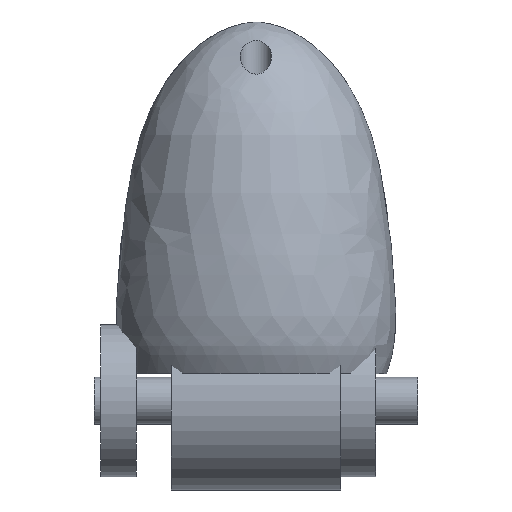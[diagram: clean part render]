
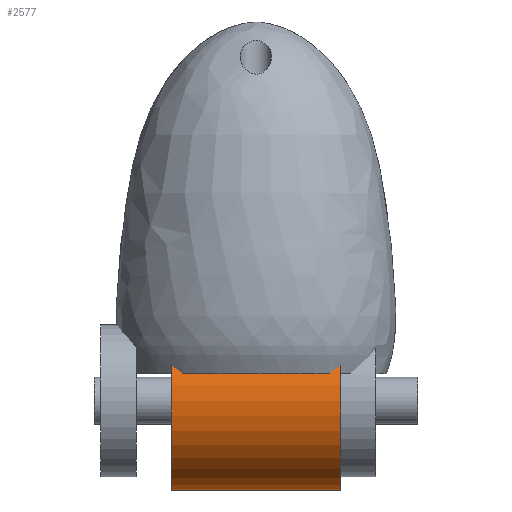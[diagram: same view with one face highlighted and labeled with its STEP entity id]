
A CAD part, left-side view. The second image highlights one B-rep face of the part: STEP entity #2577.
In plain terms, the highlighted cylindrical face has radius 4 mm (diameter 8 mm), a full revolution.
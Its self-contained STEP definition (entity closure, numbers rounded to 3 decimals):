
#2577 = ADVANCED_FACE('',(#2578),#2605,.T.);
#2578 = FACE_BOUND('',#2579,.T.);
#2579 = EDGE_LOOP('',(#2580,#2589,#2597,#2604));
#2580 = ORIENTED_EDGE('',*,*,#2581,.F.);
#2581 = EDGE_CURVE('',#2582,#2582,#2584,.T.);
#2582 = VERTEX_POINT('',#2583);
#2583 = CARTESIAN_POINT('',(0.,3.802,4.));
#2584 = CIRCLE('',#2585,4.);
#2585 = AXIS2_PLACEMENT_3D('',#2586,#2587,#2588);
#2586 = CARTESIAN_POINT('',(0.,3.802,0.));
#2587 = DIRECTION('',(0.,1.,0.));
#2588 = DIRECTION('',(0.,-0.,1.));
#2589 = ORIENTED_EDGE('',*,*,#2590,.F.);
#2590 = EDGE_CURVE('',#2591,#2582,#2593,.T.);
#2591 = VERTEX_POINT('',#2592);
#2592 = CARTESIAN_POINT('',(0.,-3.802,4.));
#2593 = LINE('',#2594,#2595);
#2594 = CARTESIAN_POINT('',(0.,-3.802,4.));
#2595 = VECTOR('',#2596,1.);
#2596 = DIRECTION('',(0.,1.,0.));
#2597 = ORIENTED_EDGE('',*,*,#2598,.T.);
#2598 = EDGE_CURVE('',#2591,#2591,#2599,.T.);
#2599 = CIRCLE('',#2600,4.);
#2600 = AXIS2_PLACEMENT_3D('',#2601,#2602,#2603);
#2601 = CARTESIAN_POINT('',(0.,-3.802,0.));
#2602 = DIRECTION('',(0.,1.,0.));
#2603 = DIRECTION('',(0.,-0.,1.));
#2604 = ORIENTED_EDGE('',*,*,#2590,.T.);
#2605 = CYLINDRICAL_SURFACE('',#2606,4.);
#2606 = AXIS2_PLACEMENT_3D('',#2607,#2608,#2609);
#2607 = CARTESIAN_POINT('',(0.,-3.802,0.));
#2608 = DIRECTION('',(0.,1.,0.));
#2609 = DIRECTION('',(0.,-0.,1.));
